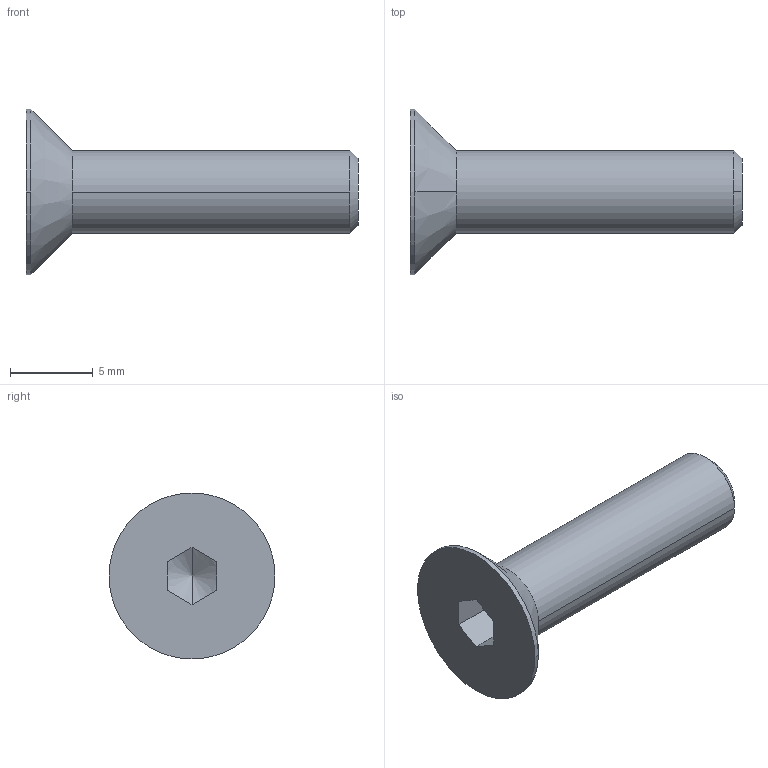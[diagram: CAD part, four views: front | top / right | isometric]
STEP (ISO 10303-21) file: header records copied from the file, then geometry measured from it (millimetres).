
FILE_DESCRIPTION (( 'STEP AP214' ), '1' );
FILE_NAME ('local.DIN.6.210.STEP', '2005-04-07T18:48:21', ( 'frantz' ), ( '' ), 'SwSTEP 2.0', 'SolidWorks 2004104', '' );
FILE_SCHEMA (( 'AUTOMOTIVE_DESIGN' ));
Length unit declared in the file: centimetre
Products named in the file (1): local.DIN.6.210
Bounding box: 20 x 10 x 10 mm (x, y, z)
Volume: 453.1 mm3; surface area: 482.3 mm2
Topology: 1 solids, 1 shells, 18 faces, 46 edges, 29 vertices
Faces by surface type: plane 8, cone 6, cylinder 4
Entity records: 577 total; most frequent: CARTESIAN_POINT 122, DIRECTION 92, ORIENTED_EDGE 88, EDGE_CURVE 44, AXIS2_PLACEMENT_3D 35, VERTEX_POINT 29, VECTOR 22, LINE 22
